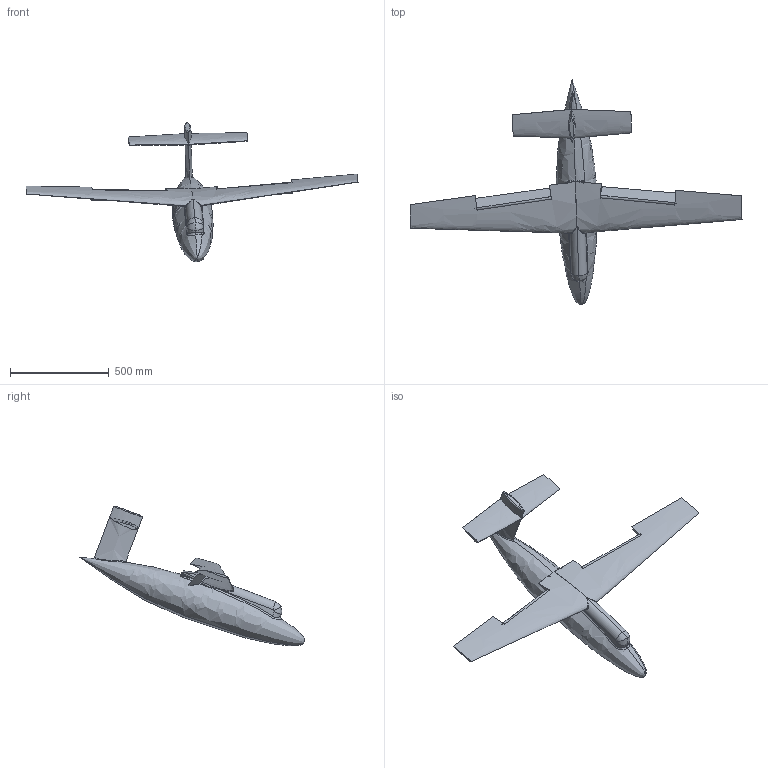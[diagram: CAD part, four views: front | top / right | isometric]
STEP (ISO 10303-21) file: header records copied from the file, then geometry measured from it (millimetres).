
FILE_DESCRIPTION(('CATIA V5 STEP Exchange'),'2;1');
FILE_NAME('D:\新建文件夹 (4)\Airplane_model.stp','2023-05-24T02:40:24+00:00',('none'),('none'),'CATIA Version 5 Release 21 GA (IN-10)','CATIA V5 STEP AP203','none');
FILE_SCHEMA(('CONFIG_CONTROL_DESIGN'));
Length unit declared in the file: millimetre
Products named in the file (1): Airplane_model
Assembly tree (3 placements, depth 2):
  Airplane_model
    #58
    #22283
    #23522
Bounding box: 1679.32 x 1140.74 x 707.24 mm (x, y, z)
Surface area: 1541170.1 mm2 (no closed solid volume)
Topology: 0 solids, 3 shells, 129 faces, 310 edges, 180 vertices
Faces by surface type: bspline 55, plane 33, cylinder 26, revolution 10, extrusion 4, sphere 1
Entity records: 24720 total; most frequent: CARTESIAN_POINT 22304, ORIENTED_EDGE 598, EDGE_CURVE 299, DIRECTION 231, B_SPLINE_CURVE_WITH_KNOTS 220, VERTEX_POINT 180, EDGE_LOOP 137, ADVANCED_FACE 129
